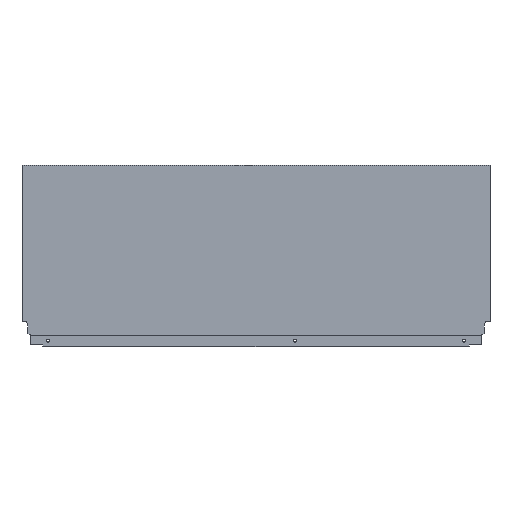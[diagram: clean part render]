
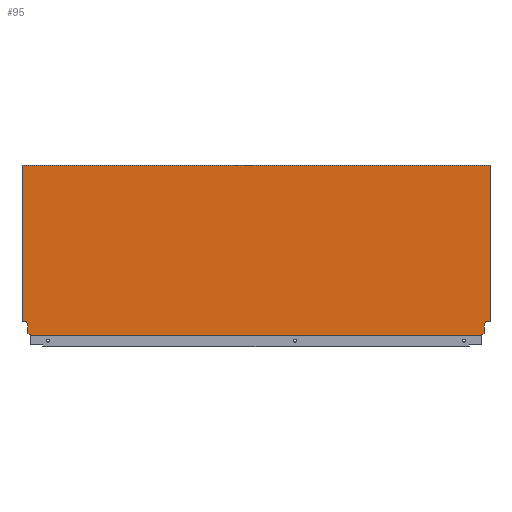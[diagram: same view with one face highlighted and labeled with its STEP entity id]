
A CAD part, top view. The second image highlights one B-rep face of the part: STEP entity #95.
In plain terms, the highlighted planar face has unit normal (0, 0, 1).
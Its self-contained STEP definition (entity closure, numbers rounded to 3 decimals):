
#58 = AXIS2_PLACEMENT_3D ( 'NONE', #1181, #1173, #1172 ) ;
#95 = ADVANCED_FACE ( 'NONE', ( #313 ), #1185, .T. ) ;
#192 = EDGE_CURVE ( 'NONE', #1219, #1134, #1452, .T. ) ;
#193 = EDGE_CURVE ( 'NONE', #1142, #1194, #1454, .T. ) ;
#194 = EDGE_CURVE ( 'NONE', #1104, #1145, #1448, .T. ) ;
#197 = EDGE_CURVE ( 'NONE', #1219, #1142, #1455, .T. ) ;
#202 = EDGE_CURVE ( 'NONE', #1179, #1207, #1433, .T. ) ;
#203 = EDGE_CURVE ( 'NONE', #1221, #1149, #1431, .T. ) ;
#205 = EDGE_CURVE ( 'NONE', #1223, #1221, #1426, .T. ) ;
#207 = EDGE_CURVE ( 'NONE', #1162, #1223, #1449, .T. ) ;
#208 = EDGE_CURVE ( 'NONE', #1145, #1207, #1420, .T. ) ;
#209 = EDGE_CURVE ( 'NONE', #1179, #1128, #1418, .T. ) ;
#210 = EDGE_CURVE ( 'NONE', #1194, #1104, #1444, .T. ) ;
#212 = EDGE_CURVE ( 'NONE', #1107, #1134, #1434, .T. ) ;
#214 = EDGE_CURVE ( 'NONE', #1149, #1107, #1421, .T. ) ;
#216 = EDGE_CURVE ( 'NONE', #1128, #1162, #1290, .T. ) ;
#313 = FACE_OUTER_BOUND ( 'NONE', #364, .T. ) ;
#364 = EDGE_LOOP ( 'NONE', ( #1333, #1306, #1307, #1320, #1321, #1311, #1331, #1310, #1322, #1299, #1298, #1300, #591, #603 ) ) ;
#591 = ORIENTED_EDGE ( 'NONE', *, *, #216, .F. ) ;
#603 = ORIENTED_EDGE ( 'NONE', *, *, #209, .F. ) ;
#634 = CARTESIAN_POINT ( 'NONE',  ( -708.1, 2.64, 8. ) ) ;
#638 = CARTESIAN_POINT ( 'NONE',  ( -717., 260.7, 8. ) ) ;
#643 = CARTESIAN_POINT ( 'NONE',  ( 0., 21.2, 8. ) ) ;
#652 = CARTESIAN_POINT ( 'NONE',  ( -8.9, 2.64, 8. ) ) ;
#653 = CARTESIAN_POINT ( 'NONE',  ( -709.94, 21.2, 8. ) ) ;
#654 = CARTESIAN_POINT ( 'NONE',  ( -703.996, 1.146, 8. ) ) ;
#658 = CARTESIAN_POINT ( 'NONE',  ( -13.004, 0., 8. ) ) ;
#661 = CARTESIAN_POINT ( 'NONE',  ( 0., 260.7, 8. ) ) ;
#670 = CARTESIAN_POINT ( 'NONE',  ( -13.004, 1.146, 8. ) ) ;
#671 = CARTESIAN_POINT ( 'NONE',  ( -708.1, 10.765, 8. ) ) ;
#823 = DIRECTION ( 'NONE',  ( 0., -1., 0. ) ) ;
#824 = CARTESIAN_POINT ( 'NONE',  ( 0., 0., 8. ) ) ;
#828 = DIRECTION ( 'NONE',  ( -0.94, -0.342, 0. ) ) ;
#832 = DIRECTION ( 'NONE',  ( 0., -1., 0. ) ) ;
#833 = CARTESIAN_POINT ( 'NONE',  ( -8.9, 2.64, 8. ) ) ;
#836 = DIRECTION ( 'NONE',  ( 0., 1., 0. ) ) ;
#837 = CARTESIAN_POINT ( 'NONE',  ( -13.004, 1.146, 8. ) ) ;
#838 = DIRECTION ( 'NONE',  ( 1., 0., 0. ) ) ;
#840 = CARTESIAN_POINT ( 'NONE',  ( -717., 260.7, 8. ) ) ;
#841 = DIRECTION ( 'NONE',  ( -1., 0., 0. ) ) ;
#842 = CARTESIAN_POINT ( 'NONE',  ( -722., 21.2, 8. ) ) ;
#843 = DIRECTION ( 'NONE',  ( -1., 0., 0. ) ) ;
#844 = CARTESIAN_POINT ( 'NONE',  ( -708.1, 10.765, 8. ) ) ;
#847 = DIRECTION ( 'NONE',  ( -0.174, -0.985, 0. ) ) ;
#848 = CARTESIAN_POINT ( 'NONE',  ( -7.06, 21.2, 8. ) ) ;
#853 = DIRECTION ( 'NONE',  ( 0., -1., 0. ) ) ;
#854 = CARTESIAN_POINT ( 'NONE',  ( -8.9, 10.765, 8. ) ) ;
#855 = DIRECTION ( 'NONE',  ( 0., -1., 0. ) ) ;
#856 = CARTESIAN_POINT ( 'NONE',  ( -717., 0., 8. ) ) ;
#859 = CARTESIAN_POINT ( 'NONE',  ( 0., 21.2, 8. ) ) ;
#869 = DIRECTION ( 'NONE',  ( 0., 1., 0. ) ) ;
#870 = CARTESIAN_POINT ( 'NONE',  ( -703.996, 1.146, 8. ) ) ;
#877 = DIRECTION ( 'NONE',  ( -0.174, 0.985, 0. ) ) ;
#878 = CARTESIAN_POINT ( 'NONE',  ( -709.94, 21.2, 8. ) ) ;
#879 = DIRECTION ( 'NONE',  ( -0.94, 0.342, 0. ) ) ;
#882 = DIRECTION ( 'NONE',  ( 1., 0., 0. ) ) ;
#883 = CARTESIAN_POINT ( 'NONE',  ( -717., 0., 8. ) ) ;
#893 = CARTESIAN_POINT ( 'NONE',  ( -717., 21.2, 8. ) ) ;
#896 = CARTESIAN_POINT ( 'NONE',  ( -708.1, 2.64, 8. ) ) ;
#1104 = VERTEX_POINT ( 'NONE', #671 ) ;
#1107 = VERTEX_POINT ( 'NONE', #670 ) ;
#1128 = VERTEX_POINT ( 'NONE', #661 ) ;
#1134 = VERTEX_POINT ( 'NONE', #658 ) ;
#1142 = VERTEX_POINT ( 'NONE', #654 ) ;
#1145 = VERTEX_POINT ( 'NONE', #653 ) ;
#1149 = VERTEX_POINT ( 'NONE', #652 ) ;
#1162 = VERTEX_POINT ( 'NONE', #643 ) ;
#1172 = DIRECTION ( 'NONE',  ( 1., 0., 0. ) ) ;
#1173 = DIRECTION ( 'NONE',  ( 0., 0., 1. ) ) ;
#1179 = VERTEX_POINT ( 'NONE', #638 ) ;
#1181 = CARTESIAN_POINT ( 'NONE',  ( -717., 0., 8. ) ) ;
#1185 = PLANE ( 'NONE',  #58 ) ;
#1194 = VERTEX_POINT ( 'NONE', #634 ) ;
#1207 = VERTEX_POINT ( 'NONE', #893 ) ;
#1219 = VERTEX_POINT ( 'NONE', #1355 ) ;
#1221 = VERTEX_POINT ( 'NONE', #1351 ) ;
#1223 = VERTEX_POINT ( 'NONE', #1406 ) ;
#1289 = VECTOR ( 'NONE', #823, 1000. ) ;
#1290 = LINE ( 'NONE', #824, #1289 ) ;
#1298 = ORIENTED_EDGE ( 'NONE', *, *, #205, .F. ) ;
#1299 = ORIENTED_EDGE ( 'NONE', *, *, #203, .F. ) ;
#1300 = ORIENTED_EDGE ( 'NONE', *, *, #207, .F. ) ;
#1306 = ORIENTED_EDGE ( 'NONE', *, *, #208, .F. ) ;
#1307 = ORIENTED_EDGE ( 'NONE', *, *, #194, .F. ) ;
#1310 = ORIENTED_EDGE ( 'NONE', *, *, #212, .F. ) ;
#1311 = ORIENTED_EDGE ( 'NONE', *, *, #197, .F. ) ;
#1320 = ORIENTED_EDGE ( 'NONE', *, *, #210, .F. ) ;
#1321 = ORIENTED_EDGE ( 'NONE', *, *, #193, .F. ) ;
#1322 = ORIENTED_EDGE ( 'NONE', *, *, #214, .F. ) ;
#1331 = ORIENTED_EDGE ( 'NONE', *, *, #192, .T. ) ;
#1333 = ORIENTED_EDGE ( 'NONE', *, *, #202, .T. ) ;
#1336 = VECTOR ( 'NONE', #828, 1000. ) ;
#1351 = CARTESIAN_POINT ( 'NONE',  ( -8.9, 10.765, 8. ) ) ;
#1355 = CARTESIAN_POINT ( 'NONE',  ( -703.996, 0., 8. ) ) ;
#1406 = CARTESIAN_POINT ( 'NONE',  ( -7.06, 21.2, 8. ) ) ;
#1416 = VECTOR ( 'NONE', #836, 1000. ) ;
#1417 = VECTOR ( 'NONE', #838, 1000. ) ;
#1418 = LINE ( 'NONE', #840, #1417 ) ;
#1419 = VECTOR ( 'NONE', #841, 1000. ) ;
#1420 = LINE ( 'NONE', #842, #1419 ) ;
#1421 = LINE ( 'NONE', #833, #1336 ) ;
#1422 = VECTOR ( 'NONE', #843, 1000. ) ;
#1425 = VECTOR ( 'NONE', #847, 1000. ) ;
#1426 = LINE ( 'NONE', #848, #1425 ) ;
#1429 = VECTOR ( 'NONE', #853, 1000. ) ;
#1431 = LINE ( 'NONE', #854, #1429 ) ;
#1432 = VECTOR ( 'NONE', #855, 1000. ) ;
#1433 = LINE ( 'NONE', #856, #1432 ) ;
#1434 = LINE ( 'NONE', #837, #1486 ) ;
#1444 = LINE ( 'NONE', #844, #1416 ) ;
#1447 = VECTOR ( 'NONE', #877, 1000. ) ;
#1448 = LINE ( 'NONE', #878, #1447 ) ;
#1449 = LINE ( 'NONE', #859, #1422 ) ;
#1450 = VECTOR ( 'NONE', #879, 1000. ) ;
#1451 = VECTOR ( 'NONE', #882, 1000. ) ;
#1452 = LINE ( 'NONE', #883, #1451 ) ;
#1454 = LINE ( 'NONE', #896, #1450 ) ;
#1455 = LINE ( 'NONE', #870, #1458 ) ;
#1458 = VECTOR ( 'NONE', #869, 1000. ) ;
#1486 = VECTOR ( 'NONE', #832, 1000. ) ;
